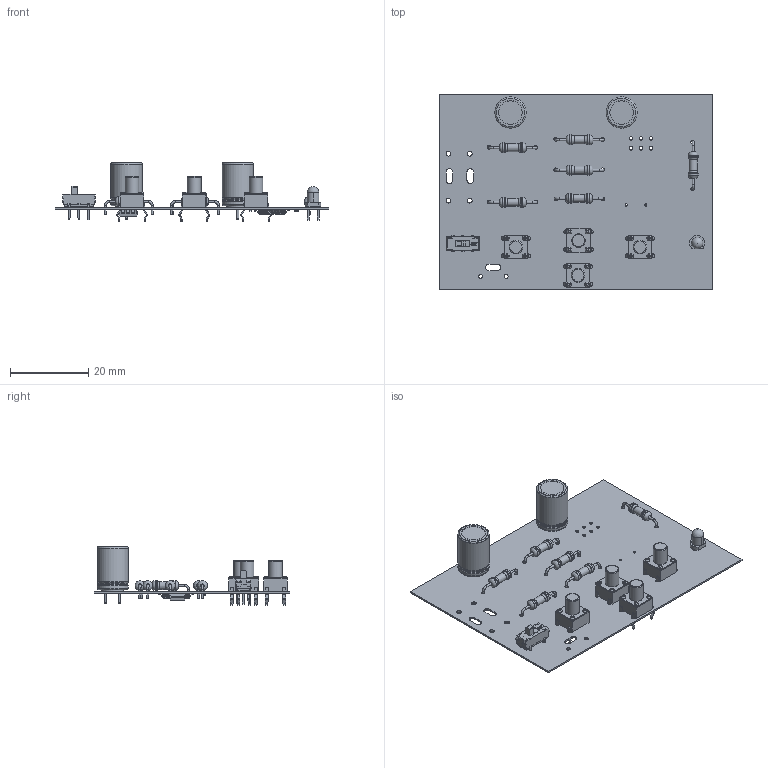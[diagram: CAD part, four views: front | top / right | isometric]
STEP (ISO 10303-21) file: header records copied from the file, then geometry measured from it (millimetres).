
FILE_DESCRIPTION(('Open CASCADE Model'),'2;1');
FILE_NAME('Open CASCADE Shape Model','2021-06-25T00:21:20',('Author'),( 'Open CASCADE'),'Open CASCADE STEP processor 6.8','Open CASCADE 6.8' ,'Unknown');
FILE_SCHEMA(('AUTOMOTIVE_DESIGN { 1 0 10303 214 1 1 1 1 }'));
Length unit declared in the file: millimetre
Products named in the file (40): PCB; Board; S1; JS102011CQN; LED1; CircuitWorks-REDLED; U2; SOIC-8; U1; ATMEGA328P-AN; Body; PinsArrayLR; PinsArrayTB; RIGHT; TACT_SWITCH_TL-1105-C; LEFT; FW; ENTER; R7; Resistor_Metal_Film_0.6W_RGB39372; R6; R5; R4; R3; R2; RES0402; R1; C2; Aluminum_electrolytic_capacitor_radial_D8_H11.5_PinD0.6_Pitch3.5_
nominal_brown_RGB8421504; C1; C3; User_Library-Capacitor_0402; C4; C5; C6; C7
Assembly tree (56 placements, depth 4):
  PCB
    Board
    S1
      JS102011CQN
    LED1
      CircuitWorks-REDLED
    U2
      SOIC-8
    U1
      ATMEGA328P-AN
        Body
        PinsArrayLR
        PinsArrayTB
    RIGHT
      TACT_SWITCH_TL-1105-C
    LEFT
      TACT_SWITCH_TL-1105-C
    FW
      TACT_SWITCH_TL-1105-C
    ENTER
      TACT_SWITCH_TL-1105-C
    R7
      Resistor_Metal_Film_0.6W_RGB39372
    R6
      Resistor_Metal_Film_0.6W_RGB39372
    R5
      Resistor_Metal_Film_0.6W_RGB39372
    R4
      Resistor_Metal_Film_0.6W_RGB39372
    R3
      Resistor_Metal_Film_0.6W_RGB39372
    R2
      RES0402
    R1
      Resistor_Metal_Film_0.6W_RGB39372
    C2
      Aluminum_electrolytic_capacitor_radial_D8_H11.5_PinD0.6_Pitch3.5_
nominal_brown_RGB8421504
      Aluminum_electrolytic_capacitor_radial_D8_H11.5_PinD0.6_Pitch3.5_
nominal_brown_RGB8421504
      Aluminum_electrolytic_capacitor_radial_D8_H11.5_PinD0.6_Pitch3.5_
nominal_brown_RGB8421504
      Aluminum_electrolytic_capacitor_radial_D8_H11.5_PinD0.6_Pitch3.5_
nominal_brown_RGB8421504
      Aluminum_electrolytic_capacitor_radial_D8_H11.5_PinD0.6_Pitch3.5_
nominal_brown_RGB8421504
    C1
      Aluminum_electrolytic_capacitor_radial_D8_H11.5_PinD0.6_Pitch3.5_
nominal_brown_RGB8421504
      Aluminum_electrolytic_capacitor_radial_D8_H11.5_PinD0.6_Pitch3.5_
nominal_brown_RGB8421504
      Aluminum_electrolytic_capacitor_radial_D8_H11.5_PinD0.6_Pitch3.5_
nominal_brown_RGB8421504
      Aluminum_electrolytic_capacitor_radial_D8_H11.5_PinD0.6_Pitch3.5_
nominal_brown_RGB8421504
      Aluminum_electrolytic_capacitor_radial_D8_H11.5_PinD0.6_Pitch3.5_
nominal_brown_RGB8421504
    C3
      User_Library-Capacitor_0402
    C4
      RES0402
    C5
      RES0402
    C6
      User_Library-Capacitor_0402
    C7
      User_Library-Capacitor_0402
Bounding box: 70.1 x 50.04 x 15.05 mm (x, y, z)
Volume: 2823.9 mm3; surface area: 12194.9 mm2
Topology: 68 solids, 71 shells, 2126 faces, 5387 edges, 3400 vertices
Faces by surface type: plane 1250, cylinder 590, torus 108, bspline 76, sphere 51, extrusion 47, cone 4
Full cylindrical faces by diameter (mm): 0.55 x18, 0.6 x22, 0.8 x7, 0.875 x1, 0.9 x22, 1 x18, 1.067 x2, 1.2 x20, 2 x6, 2.5 x12, 3.5 x4, 5.6 x4, 7.4 x6, 7.8 x4
Entity records: 44221 total; most frequent: CARTESIAN_POINT 8252, ORIENTED_EDGE 6752, DIRECTION 6655, EDGE_CURVE 3376, VECTOR 2495, LINE 2448, VERTEX_POINT 2172, AXIS2_PLACEMENT_3D 2080
